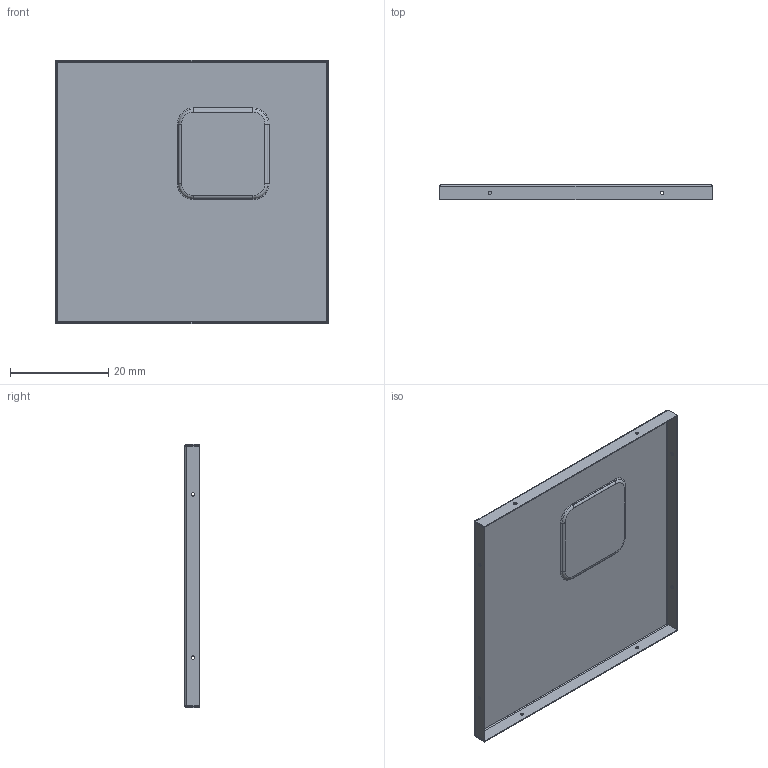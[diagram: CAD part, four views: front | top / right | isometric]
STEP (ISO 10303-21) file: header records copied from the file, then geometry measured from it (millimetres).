
FILE_DESCRIPTION((''),'2;1');
FILE_NAME('SHIELDING_COVER_TOP','2020-08-11T',('G6003023'),(''),'PRO/ENGINEER BY PARAMETRIC TECHNOLOGY CORPORATION, 2013150','PRO/ENGINEER BY PARAMETRIC TECHNOLOGY CORPORATION, 2013150','');
FILE_SCHEMA(('CONFIG_CONTROL_DESIGN'));
Length unit declared in the file: millimetre
Products named in the file (1): SHIELDING_COVER_TOP
Bounding box: 55.69 x 3 x 53.81 mm (x, y, z)
Volume: 717.2 mm3; surface area: 7224.2 mm2
Topology: 1 solids, 1 shells, 92 faces, 216 edges, 128 vertices
Faces by surface type: cylinder 40, plane 32, bspline 20
Entity records: 4596 total; most frequent: CARTESIAN_POINT 2506, ORIENTED_EDGE 432, DIRECTION 408, EDGE_CURVE 216, AXIS2_PLACEMENT_3D 152, VERTEX_POINT 128, EDGE_LOOP 110, VECTOR 104
